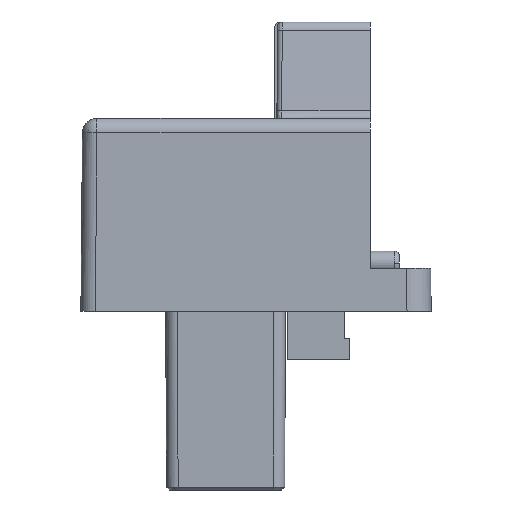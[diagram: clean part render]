
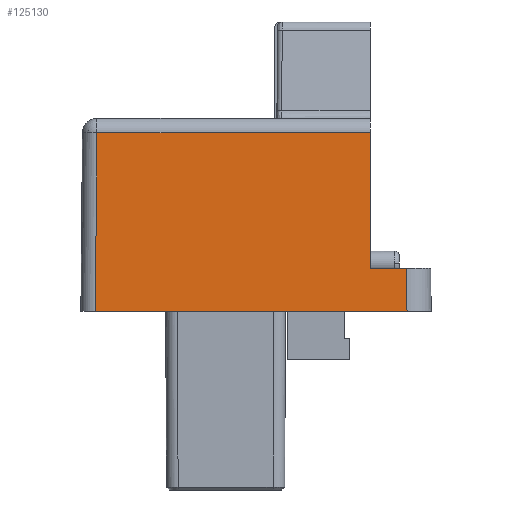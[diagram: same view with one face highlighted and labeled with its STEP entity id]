
A CAD part, left-side view. The second image highlights one B-rep face of the part: STEP entity #125130.
In plain terms, the highlighted planar face has unit normal (-1, 0, 0.009).
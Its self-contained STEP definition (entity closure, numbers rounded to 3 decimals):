
#18960=CARTESIAN_POINT('',(-19.961,-15.,4.5));
#18970=VERTEX_POINT('',#18960);
#19020=CARTESIAN_POINT('',(-20.,-15.,0.));
#19030=DIRECTION('',(0.009,0.,1.));
#19040=VECTOR('',#19030,1.);
#19050=LINE('',#19020,#19040);
#19060=CARTESIAN_POINT('',(-19.838,-15.,18.513));
#19070=VERTEX_POINT('',#19060);
#19080=EDGE_CURVE('',#18970,#19070,#19050,.T.);
#47940=CARTESIAN_POINT('',(-20.,13.5,0.));
#47950=VERTEX_POINT('',#47940);
#47980=CARTESIAN_POINT('',(-20.,0.,0.));
#47990=DIRECTION('',(0.,-1.,0.));
#48000=VECTOR('',#47990,1.);
#48010=LINE('',#47980,#48000);
#48020=CARTESIAN_POINT('',(-20.,-18.8,0.));
#48030=VERTEX_POINT('',#48020);
#48040=EDGE_CURVE('',#47950,#48030,#48010,.T.);
#57470=CARTESIAN_POINT('',(-19.961,-18.761,4.5));
#57480=VERTEX_POINT('',#57470);
#57510=CARTESIAN_POINT('',(-19.961,0.,4.5));
#57520=DIRECTION('',(0.,-1.,0.));
#57530=VECTOR('',#57520,1.);
#57540=LINE('',#57510,#57530);
#57550=EDGE_CURVE('',#18970,#57480,#57540,.T.);
#58550=CARTESIAN_POINT('',(-19.838,13.338,
18.513));
#58560=VERTEX_POINT('',#58550);
#76570=CARTESIAN_POINT('',(-20.,-18.8,
0.022));
#76580=DIRECTION('',(0.009,0.009,
1.));
#76590=VECTOR('',#76580,1.);
#76600=LINE('',#76570,#76590);
#76610=EDGE_CURVE('',#48030,#57480,#76600,.T.);
#103430=CARTESIAN_POINT('',(-20.,13.5,
0.013));
#103440=DIRECTION('',(0.009,-0.009,
1.));
#103450=VECTOR('',#103440,1.);
#103460=LINE('',#103430,#103450);
#103470=EDGE_CURVE('',#47950,#58560,#103460,.T.);
#109840=CARTESIAN_POINT('',(-19.838,0.,18.513));
#109850=DIRECTION('',(0.,1.,0.));
#109860=VECTOR('',#109850,1.);
#109870=LINE('',#109840,#109860);
#109880=EDGE_CURVE('',#19070,#58560,#109870,.T.);
#125000=CARTESIAN_POINT('',(-20.,-15.15,0.));
#125010=DIRECTION('',(-1.,0.,0.009));
#125020=DIRECTION('',(0.009,0.,1.));
#125030=AXIS2_PLACEMENT_3D('',#125000,#125010,#125020);
#125040=PLANE('',#125030);
#125050=ORIENTED_EDGE('',*,*,#48040,.T.);
#125060=ORIENTED_EDGE('',*,*,#103470,.F.);
#125070=ORIENTED_EDGE('',*,*,#109880,.T.);
#125080=ORIENTED_EDGE('',*,*,#19080,.T.);
#125090=ORIENTED_EDGE('',*,*,#57550,.F.);
#125100=ORIENTED_EDGE('',*,*,#76610,.T.);
#125110=EDGE_LOOP('',(#125100,#125090,#125080,#125070,#125060,#125050));
#125120=FACE_OUTER_BOUND('',#125110,.T.);
#125130=ADVANCED_FACE('',(#125120),#125040,.T.);
